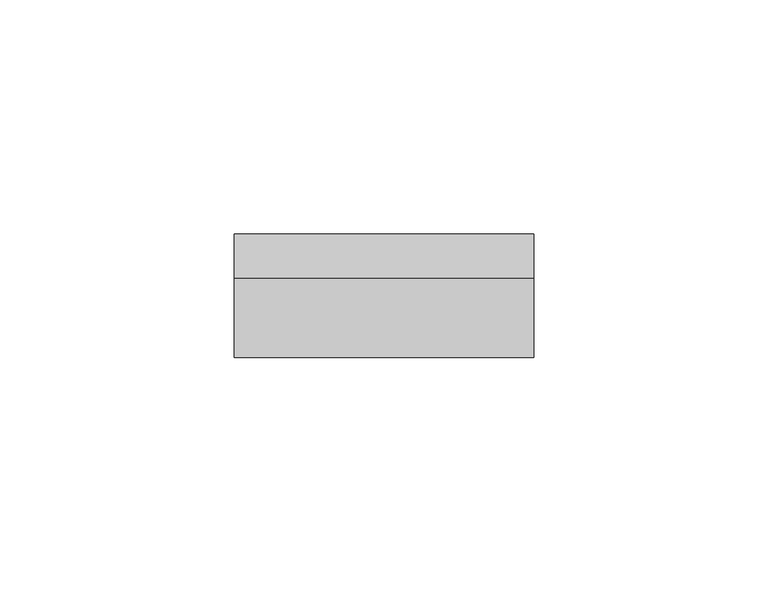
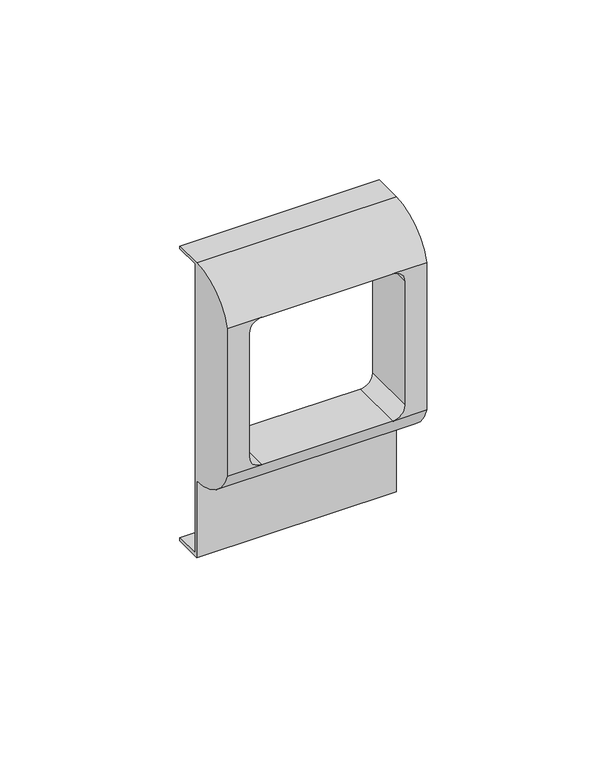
"""IFC4 building model written with IfcOpenShell, lengths in millimetres: proxy geometry."""

from ifc_helpers import new_model, si_unit, frame, origin, place, context, project, spatial, polyline, circle_curve, source, transform, mapped, element, save
from ifc_brep_helpers import plane_surface, cylinder_surface, revolved_surface, advanced_brep


def electrical_fixtures_93f455a8(model_context):
    return source(origin(), model_context, "Body", "AdvancedBrep", [
        advanced_brep(
        [(32.0, 8.4, 49.0), (32.0, 8.4, 50.0), (32.0, -1.0, 50.0), (32.0, -18.0, 38.0), (32.0, -18.0, -12.0), (32.0, -1.0, -24.0), (32.0, -1.0, -50.0), (32.0, 8.4, -50.0), (32.0, 8.4, -49.0), (32.0, 0.0, -49.0), (32.0, 0.0, 49.0), (-32.0, 8.4, 49.0), (-32.0, 0.0, 49.0), (-32.0, 0.0, -49.0), (-32.0, 8.4, -49.0), (-32.0, 8.4, -50.0), (-32.0, -1.0, -50.0), (-32.0, -1.0, -24.0), (-32.0, -18.0, -12.0), (-32.0, -18.0, 38.0), (-32.0, -1.0, 50.0), (-32.0, 8.4, 50.0), (20.9686648, -18.0, 38.0), (25.0, -18.0, 33.9686648), (25.0, -18.0, -7.9686648), (20.9686648, -18.0, -12.0), (-20.9686648, -18.0, -12.0), (-25.0, -18.0, -7.9686648), (-25.0, -18.0, 33.9686648), (-20.9686648, -18.0, 38.0), (20.9686648, 0.0, 38.0), (-20.9686648, 0.0, 38.0), (-25.0, 0.0, 33.9686648), (-25.0, 0.0, -7.9686648), (-20.9686648, 0.0, -12.0), (20.9686648, 0.0, -12.0), (25.0, 0.0, -7.9686648), (25.0, 0.0, 33.9686648)],
        [
            (0, 1),
            (1, 2),
            (2, 3, circle_curve(frame((32.0, -1.0, 31.9583333), z_axis=(1.0, 0.0, 0.0), x_axis=(0.0, 1.0, 0.0)), 18.0416667)),
            (3, 4),
            (4, 5, circle_curve(frame((32.0, -1.0, -5.9583333), z_axis=(1.0, 0.0, 0.0), x_axis=(0.0, 1.0, 0.0)), 18.0416667)),
            (5, 6),
            (6, 7),
            (7, 8),
            (8, 9),
            (9, 10),
            (10, 0),
            (11, 12),
            (12, 13),
            (13, 14),
            (14, 15),
            (15, 16),
            (16, 17),
            (17, 18, circle_curve(frame((-32.0, -1.0, -5.9583333), z_axis=(-1.0, 0.0, 0.0), x_axis=(0.0, 1.0, 0.0)), 18.0416667)),
            (18, 19),
            (19, 20, circle_curve(frame((-32.0, -1.0, 31.9583333), z_axis=(-1.0, 0.0, 0.0), x_axis=(0.0, 1.0, 0.0)), 18.0416667)),
            (20, 21),
            (21, 11),
            (0, 11),
            (21, 1),
            (20, 2),
            (3, 22),
            (22, 23, circle_curve(frame((20.9686648, -18.0, 33.9686648), z_axis=(0.0, 1.0, 0.0), x_axis=(1.0, 0.0, 0.0)), 4.0313352)),
            (23, 24),
            (24, 25, circle_curve(frame((20.9686648, -18.0, -7.9686648), z_axis=(0.0, 1.0, 0.0), x_axis=(1.0, 0.0, 0.0)), 4.0313352)),
            (25, 4),
            (18, 26),
            (26, 27, circle_curve(frame((-20.9686648, -18.0, -7.9686648), z_axis=(0.0, 1.0, 0.0), x_axis=(1.0, 0.0, 0.0)), 4.0313352)),
            (27, 28),
            (28, 29, circle_curve(frame((-20.9686648, -18.0, 33.9686648), z_axis=(0.0, 1.0, 0.0), x_axis=(1.0, 0.0, 0.0)), 4.0313352)),
            (29, 19),
            (5, 17),
            (16, 6),
            (15, 7),
            (14, 8),
            (13, 9),
            (12, 10),
            (30, 31),
            (31, 32, circle_curve(frame((-20.9686648, 0.0, 33.9686648), z_axis=(0.0, -1.0, 0.0), x_axis=(1.0, 0.0, 0.0)), 4.0313352)),
            (32, 33),
            (33, 34, circle_curve(frame((-20.9686648, 0.0, -7.9686648), z_axis=(0.0, -1.0, 0.0), x_axis=(1.0, 0.0, 0.0)), 4.0313352)),
            (34, 35),
            (35, 36, circle_curve(frame((20.9686648, 0.0, -7.9686648), z_axis=(0.0, -1.0, 0.0), x_axis=(1.0, 0.0, 0.0)), 4.0313352)),
            (36, 37),
            (37, 30, circle_curve(frame((20.9686648, 0.0, 33.9686648), z_axis=(0.0, -1.0, 0.0), x_axis=(1.0, 0.0, 0.0)), 4.0313352)),
            (29, 22),
            (25, 26),
            (29, 31),
            (30, 22),
            (28, 32),
            (27, 33),
            (26, 34),
            (25, 35),
            (24, 36),
            (23, 37),
        ],
        [
            plane_surface(frame((32.0, 8.4, 50.0), z_axis=(1.0, 0.0, 0.0), x_axis=(0.0, 0.0, 1.0))),
            plane_surface(frame((-32.0, 8.4, 50.0), z_axis=(-1.0, 0.0, 0.0), x_axis=(0.0, 0.0, -1.0))),
            plane_surface(frame((32.0, 8.4, 49.0), z_axis=(0.0, 1.0, 0.0), x_axis=(-1.0, 0.0, 0.0))),
            plane_surface(frame((32.0, 8.4, 50.0), z_axis=(0.0, 0.0, 1.0), x_axis=(-1.0, 0.0, 0.0))),
            plane_surface(frame((32.0, -18.0, 38.0), z_axis=(0.0, -1.0, 0.0), x_axis=(-1.0, 0.0, 0.0))),
            plane_surface(frame((32.0, -1.0, -24.0), z_axis=(0.0, -1.0, 0.0), x_axis=(-1.0, 0.0, 0.0))),
            plane_surface(frame((32.0, -1.0, -50.0), z_axis=(0.0, 0.0, -1.0), x_axis=(-1.0, 0.0, 0.0))),
            plane_surface(frame((32.0, 8.4, -50.0), z_axis=(0.0, 1.0, 0.0), x_axis=(-1.0, 0.0, 0.0))),
            plane_surface(frame((32.0, 8.4, -49.0), z_axis=(0.0, 0.0, 1.0), x_axis=(-1.0, 0.0, 0.0))),
            plane_surface(frame((32.0, 0.0, -49.0), z_axis=(0.0, 1.0, 0.0), x_axis=(-1.0, 0.0, 0.0))),
            plane_surface(frame((32.0, 0.0, 49.0), z_axis=(0.0, 0.0, -1.0), x_axis=(-1.0, 0.0, 0.0))),
            cylinder_surface(frame((-32.0, -1.0, 31.9583333), z_axis=(1.0, 0.0, 0.0), x_axis=(0.0, 1.0, 0.0)), 18.0416667),
            cylinder_surface(frame((-32.0, -1.0, -5.9583333), z_axis=(1.0, 0.0, 0.0), x_axis=(0.0, 1.0, 0.0)), 18.0416667),
            plane_surface(frame((20.9686648, -18.0, 38.0), z_axis=(0.0, 0.0, -1.0), x_axis=(0.0, 1.0, 0.0))),
            revolved_surface(polyline([(-16.937329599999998, -18.0, 33.9686648), (-16.937329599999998, 0.0, 33.9686648)]), (-20.9686648, 0.0, 33.9686648), (0.0, -1.0, 0.0)),
            plane_surface(frame((-25.0, -18.0, 33.9686648), z_axis=(1.0, 0.0, 0.0), x_axis=(0.0, 1.0, 0.0))),
            revolved_surface(polyline([(-16.937329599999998, -18.0, -7.9686648), (-16.937329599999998, 0.0, -7.9686648)]), (-20.9686648, 0.0, -7.9686648), (0.0, -1.0, 0.0)),
            plane_surface(frame((-20.9686648, -18.0, -12.0), z_axis=(0.0, 0.0, 1.0), x_axis=(0.0, 1.0, 0.0))),
            revolved_surface(polyline([(25.0, -18.0, -7.9686648), (25.0, 0.0, -7.9686648)]), (20.9686648, 0.0, -7.9686648), (0.0, -1.0, 0.0)),
            plane_surface(frame((25.0, -18.0, -7.9686648), z_axis=(-1.0, 0.0, 0.0), x_axis=(0.0, 1.0, 0.0))),
            revolved_surface(polyline([(25.0, -18.0, 33.9686648), (25.0, 0.0, 33.9686648)]), (20.9686648, 0.0, 33.9686648), (0.0, -1.0, 0.0)),
        ],
        [
            (0, [[1, 2, 3, 4, 5, 6, 7, 8, 9, 10, 11]]),
            (1, [[12, 13, 14, 15, 16, 17, 18, 19, 20, 21, 22]]),
            (2, [[-1, 23, -22, 24]]),
            (3, [[-2, -24, -21, 25]]),
            (4, [[-4, 26, 27, 28, 29, 30]]),
            (4, [[-19, 31, 32, 33, 34, 35]]),
            (5, [[-6, 36, -17, 37]]),
            (6, [[-7, -37, -16, 38]]),
            (7, [[-8, -38, -15, 39]]),
            (8, [[-9, -39, -14, 40]]),
            (9, [[-10, -40, -13, 41], [42, 43, 44, 45, 46, 47, 48, 49]]),
            (10, [[-11, -41, -12, -23]]),
            (11, [[-3, -25, -20, -35, 50, -26]]),
            (12, [[-5, -30, 51, -31, -18, -36]]),
            (13, [[52, -42, 53, -50]]),
            (14, [[-52, -34, 54, -43]]),
            (15, [[-54, -33, 55, -44]]),
            (16, [[-55, -32, 56, -45]]),
            (17, [[-56, -51, 57, -46]]),
            (18, [[-57, -29, 58, -47]]),
            (19, [[-58, -28, 59, -48]]),
            (20, [[-53, -49, -59, -27]]),
        ],
    ),
    ])


if __name__ == "__main__":
    model = new_model("IFC4")
    model_context = context("Model", 3, world=origin())
    ifc_project = project(units=[si_unit("LENGTHUNIT", "METRE", prefix="MILLI")], contexts=[model_context])
    site = spatial("IfcSite", under=ifc_project)
    building = spatial("IfcBuilding", under=site)
    placement = place(None, origin())
    electrical_fixtures_shape = electrical_fixtures_93f455a8(model_context)
    element("IfcBuildingElementProxy", 1, Name="КНС_РамкаСуппорт_ILC_DKC : Серия \"Viva\"", ObjectType="КНС_РамкаСуппорт_ILC_DKC : Серия \"Viva\"", at=placement, inside=building, context=model_context, shape_type="MappedRepresentation", body=[
        mapped(electrical_fixtures_shape, transform((0.0, 0.0, 0.0), x_axis=(1.0, 0.0, 0.0), y_axis=(0.0, 1.0, 0.0), z_axis=(0.0, 0.0, 1.0))),
    ])
    save(model, "model.ifc")
